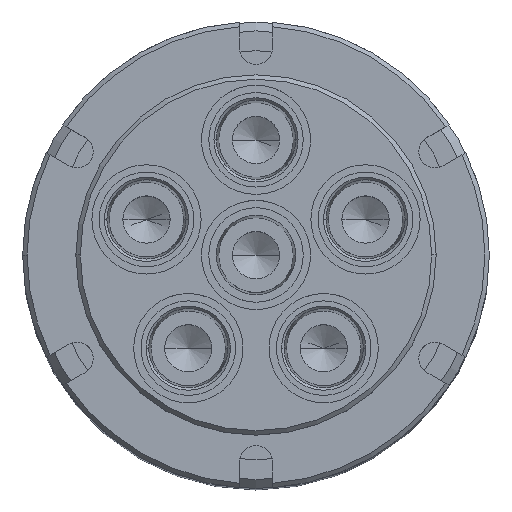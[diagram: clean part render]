
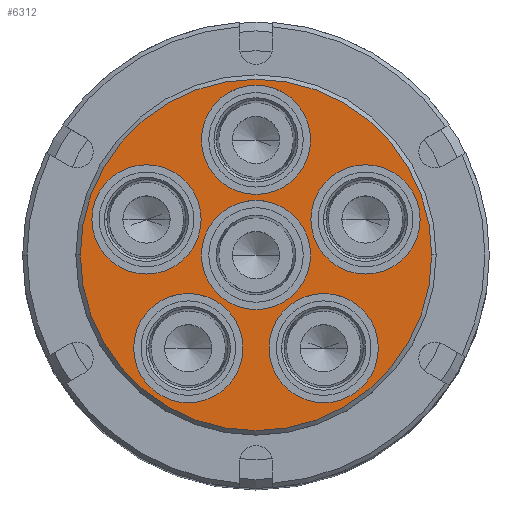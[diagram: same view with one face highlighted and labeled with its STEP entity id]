
A CAD part, top view. The second image highlights one B-rep face of the part: STEP entity #6312.
In plain terms, the highlighted planar face has unit normal (0, 0, 1).
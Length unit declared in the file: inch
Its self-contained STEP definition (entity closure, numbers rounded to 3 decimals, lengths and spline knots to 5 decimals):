
#44 = CIRCLE ( 'NONE', #49, 0.578 ) ;
#49 = AXIS2_PLACEMENT_3D ( 'NONE', #2556, #2557, #2558 ) ;
#77 = CIRCLE ( 'NONE', #80, 0.578 ) ;
#80 = AXIS2_PLACEMENT_3D ( 'NONE', #2711, #2712, #2713 ) ;
#195 = CIRCLE ( 'NONE', #198, 0.578 ) ;
#198 = AXIS2_PLACEMENT_3D ( 'NONE', #4321, #4322, #4323 ) ;
#323 = EDGE_LOOP ( 'NONE', ( #2308, #2307 ) ) ;
#324 = EDGE_LOOP ( 'NONE', ( #2306, #2305 ) ) ;
#326 = EDGE_LOOP ( 'NONE', ( #2316, #2315 ) ) ;
#362 = EDGE_LOOP ( 'NONE', ( #2312, #2311 ) ) ;
#391 = EDGE_LOOP ( 'NONE', ( #2304, #2303 ) ) ;
#558 = EDGE_LOOP ( 'NONE', ( #2310, #2309 ) ) ;
#561 = EDGE_LOOP ( 'NONE', ( #2314, #2313 ) ) ;
#681 = CARTESIAN_POINT ( 'NONE',  ( -1.15886, 0.37654, 0. ) ) ;
#682 = DIRECTION ( 'NONE',  ( 0., 0., 1. ) ) ;
#683 = DIRECTION ( 'NONE',  ( 0.309, 0.951, 0. ) ) ;
#833 = CARTESIAN_POINT ( 'NONE',  ( 1.15886, 0.37654, 0. ) ) ;
#834 = DIRECTION ( 'NONE',  ( 0., 0., 1. ) ) ;
#835 = DIRECTION ( 'NONE',  ( 0.309, -0.951, 0. ) ) ;
#1253 = CIRCLE ( 'NONE', #1257, 0.578 ) ;
#1257 = AXIS2_PLACEMENT_3D ( 'NONE', #1617, #1618, #1619 ) ;
#1358 = CIRCLE ( 'NONE', #1362, 0.578 ) ;
#1361 = CIRCLE ( 'NONE', #1363, 0.578 ) ;
#1362 = AXIS2_PLACEMENT_3D ( 'NONE', #4539, #4540, #4541 ) ;
#1363 = AXIS2_PLACEMENT_3D ( 'NONE', #4529, #4530, #4531 ) ;
#1381 = AXIS2_PLACEMENT_3D ( 'NONE', #4626, #4637, #4638 ) ;
#1392 = CIRCLE ( 'NONE', #1395, 1.859 ) ;
#1395 = AXIS2_PLACEMENT_3D ( 'NONE', #4667, #4668, #4669 ) ;
#1617 = CARTESIAN_POINT ( 'NONE',  ( 0., 1.2185, 0. ) ) ;
#1618 = DIRECTION ( 'NONE',  ( 0., 0., 1. ) ) ;
#1619 = DIRECTION ( 'NONE',  ( 1., 0., 0. ) ) ;
#2303 = ORIENTED_EDGE ( 'NONE', *, *, #5821, .T. ) ;
#2304 = ORIENTED_EDGE ( 'NONE', *, *, #6320, .T. ) ;
#2305 = ORIENTED_EDGE ( 'NONE', *, *, #6152, .F. ) ;
#2306 = ORIENTED_EDGE ( 'NONE', *, *, #6223, .F. ) ;
#2307 = ORIENTED_EDGE ( 'NONE', *, *, #5984, .F. ) ;
#2308 = ORIENTED_EDGE ( 'NONE', *, *, #6295, .F. ) ;
#2309 = ORIENTED_EDGE ( 'NONE', *, *, #6297, .F. ) ;
#2310 = ORIENTED_EDGE ( 'NONE', *, *, #5943, .F. ) ;
#2311 = ORIENTED_EDGE ( 'NONE', *, *, #5782, .F. ) ;
#2312 = ORIENTED_EDGE ( 'NONE', *, *, #5867, .F. ) ;
#2313 = ORIENTED_EDGE ( 'NONE', *, *, #5955, .F. ) ;
#2314 = ORIENTED_EDGE ( 'NONE', *, *, #5807, .F. ) ;
#2315 = ORIENTED_EDGE ( 'NONE', *, *, #6055, .F. ) ;
#2316 = ORIENTED_EDGE ( 'NONE', *, *, #6077, .F. ) ;
#2556 = CARTESIAN_POINT ( 'NONE',  ( 0., 0., 0. ) ) ;
#2557 = DIRECTION ( 'NONE',  ( 0., 0., 1. ) ) ;
#2558 = DIRECTION ( 'NONE',  ( 1., 0., 0. ) ) ;
#2711 = CARTESIAN_POINT ( 'NONE',  ( 0., 0., 0. ) ) ;
#2712 = DIRECTION ( 'NONE',  ( 0., 0., 1. ) ) ;
#2713 = DIRECTION ( 'NONE',  ( 1., 0., 0. ) ) ;
#3629 = CARTESIAN_POINT ( 'NONE',  ( 0.71622, -0.98579, 0. ) ) ;
#3630 = DIRECTION ( 'NONE',  ( 0., 0., 1. ) ) ;
#3631 = DIRECTION ( 'NONE',  ( -0.809, -0.588, 0. ) ) ;
#4321 = CARTESIAN_POINT ( 'NONE',  ( 0., 1.2185, 0. ) ) ;
#4322 = DIRECTION ( 'NONE',  ( 0., 0., 1. ) ) ;
#4323 = DIRECTION ( 'NONE',  ( 1., 0., 0. ) ) ;
#4529 = CARTESIAN_POINT ( 'NONE',  ( 1.15886, 0.37654, 0. ) ) ;
#4530 = DIRECTION ( 'NONE',  ( 0., 0., 1. ) ) ;
#4531 = DIRECTION ( 'NONE',  ( 0.309, -0.951, 0. ) ) ;
#4539 = CARTESIAN_POINT ( 'NONE',  ( 0.71622, -0.98579, 0. ) ) ;
#4540 = DIRECTION ( 'NONE',  ( 0., 0., 1. ) ) ;
#4541 = DIRECTION ( 'NONE',  ( -0.809, -0.588, 0. ) ) ;
#4626 = CARTESIAN_POINT ( 'NONE',  ( 0., 0., 0. ) ) ;
#4627 = FACE_BOUND ( 'NONE', #323, .T. ) ;
#4628 = FACE_BOUND ( 'NONE', #326, .T. ) ;
#4629 = FACE_BOUND ( 'NONE', #324, .T. ) ;
#4630 = FACE_BOUND ( 'NONE', #561, .T. ) ;
#4631 = FACE_OUTER_BOUND ( 'NONE', #391, .T. ) ;
#4632 = FACE_BOUND ( 'NONE', #362, .T. ) ;
#4633 = PLANE ( 'NONE',  #1381 ) ;
#4634 = FACE_BOUND ( 'NONE', #558, .T. ) ;
#4637 = DIRECTION ( 'NONE',  ( 0., 0., -1. ) ) ;
#4638 = DIRECTION ( 'NONE',  ( -1., 0., 0. ) ) ;
#4667 = CARTESIAN_POINT ( 'NONE',  ( 0., 0., 0. ) ) ;
#4668 = DIRECTION ( 'NONE',  ( 0., 0., 1. ) ) ;
#4669 = DIRECTION ( 'NONE',  ( -1., 0., 0. ) ) ;
#5454 = CARTESIAN_POINT ( 'NONE',  ( 0.58086, 0.37654, 0. ) ) ;
#5466 = CARTESIAN_POINT ( 'NONE',  ( -1.73686, 0.37654, 0. ) ) ;
#5469 = CARTESIAN_POINT ( 'NONE',  ( -0.13822, -0.98579, 0. ) ) ;
#5485 = CARTESIAN_POINT ( 'NONE',  ( 1.73686, 0.37654, 0. ) ) ;
#5500 = CARTESIAN_POINT ( 'NONE',  ( -0.578, 1.2185, 0. ) ) ;
#5501 = CARTESIAN_POINT ( 'NONE',  ( -1.859, 0., 0. ) ) ;
#5523 = CARTESIAN_POINT ( 'NONE',  ( -0.58086, 0.37654, 0. ) ) ;
#5552 = CARTESIAN_POINT ( 'NONE',  ( 0.578, 0., 0. ) ) ;
#5556 = CARTESIAN_POINT ( 'NONE',  ( 1.29422, -0.98579, 0. ) ) ;
#5782 = EDGE_CURVE ( 'NONE', #9142, #8952, #8728, .T. ) ;
#5807 = EDGE_CURVE ( 'NONE', #9005, #8949, #8713, .T. ) ;
#5821 = EDGE_CURVE ( 'NONE', #9130, #8984, #8578, .T. ) ;
#5867 = EDGE_CURVE ( 'NONE', #8952, #9142, #8495, .T. ) ;
#5943 = EDGE_CURVE ( 'NONE', #9038, #9157, #8741, .T. ) ;
#5955 = EDGE_CURVE ( 'NONE', #8949, #9005, #8588, .T. ) ;
#5984 = EDGE_CURVE ( 'NONE', #8941, #8968, #9476, .T. ) ;
#6055 = EDGE_CURVE ( 'NONE', #9145, #9034, #44, .T. ) ;
#6077 = EDGE_CURVE ( 'NONE', #9034, #9145, #77, .T. ) ;
#6152 = EDGE_CURVE ( 'NONE', #8983, #9136, #195, .T. ) ;
#6223 = EDGE_CURVE ( 'NONE', #9136, #8983, #1253, .T. ) ;
#6295 = EDGE_CURVE ( 'NONE', #8968, #8941, #1361, .T. ) ;
#6297 = EDGE_CURVE ( 'NONE', #9157, #9038, #1358, .T. ) ;
#6312 = ADVANCED_FACE ( 'NONE', ( #4628, #4630, #4632, #4634, #4627, #4629, #4631 ), #4633, .F. ) ;
#6320 = EDGE_CURVE ( 'NONE', #8984, #9130, #1392, .T. ) ;
#6450 = CARTESIAN_POINT ( 'NONE',  ( -1.15886, 0.37654, 0. ) ) ;
#6451 = DIRECTION ( 'NONE',  ( 0., 0., 1. ) ) ;
#6452 = DIRECTION ( 'NONE',  ( 0.309, 0.951, 0. ) ) ;
#6572 = CARTESIAN_POINT ( 'NONE',  ( 0., 0., 0. ) ) ;
#6573 = DIRECTION ( 'NONE',  ( 0., 0., 1. ) ) ;
#6574 = DIRECTION ( 'NONE',  ( -1., 0., 0. ) ) ;
#6903 = CARTESIAN_POINT ( 'NONE',  ( -0.71622, -0.98579, 0. ) ) ;
#6904 = DIRECTION ( 'NONE',  ( 0., 0., 1. ) ) ;
#6905 = DIRECTION ( 'NONE',  ( -0.809, 0.588, 0. ) ) ;
#7344 = CARTESIAN_POINT ( 'NONE',  ( -0.71622, -0.98579, 0. ) ) ;
#7345 = DIRECTION ( 'NONE',  ( 0., 0., 1. ) ) ;
#7346 = DIRECTION ( 'NONE',  ( -0.809, 0.588, 0. ) ) ;
#8018 = CARTESIAN_POINT ( 'NONE',  ( 1.859, 0., 0. ) ) ;
#8024 = CARTESIAN_POINT ( 'NONE',  ( 0.578, 1.2185, 0. ) ) ;
#8030 = CARTESIAN_POINT ( 'NONE',  ( -1.29422, -0.98579, 0. ) ) ;
#8033 = CARTESIAN_POINT ( 'NONE',  ( -0.578, 0., 0. ) ) ;
#8045 = CARTESIAN_POINT ( 'NONE',  ( 0.13822, -0.98579, 0. ) ) ;
#8495 = CIRCLE ( 'NONE', #8609, 0.578 ) ;
#8578 = CIRCLE ( 'NONE', #8703, 1.859 ) ;
#8588 = CIRCLE ( 'NONE', #8739, 0.578 ) ;
#8607 = AXIS2_PLACEMENT_3D ( 'NONE', #6450, #6451, #6452 ) ;
#8609 = AXIS2_PLACEMENT_3D ( 'NONE', #6903, #6904, #6905 ) ;
#8694 = AXIS2_PLACEMENT_3D ( 'NONE', #3629, #3630, #3631 ) ;
#8703 = AXIS2_PLACEMENT_3D ( 'NONE', #6572, #6573, #6574 ) ;
#8713 = CIRCLE ( 'NONE', #8607, 0.578 ) ;
#8715 = AXIS2_PLACEMENT_3D ( 'NONE', #7344, #7345, #7346 ) ;
#8728 = CIRCLE ( 'NONE', #8715, 0.578 ) ;
#8739 = AXIS2_PLACEMENT_3D ( 'NONE', #681, #682, #683 ) ;
#8741 = CIRCLE ( 'NONE', #8694, 0.578 ) ;
#8941 = VERTEX_POINT ( 'NONE', #5454 ) ;
#8949 = VERTEX_POINT ( 'NONE', #5466 ) ;
#8952 = VERTEX_POINT ( 'NONE', #5469 ) ;
#8968 = VERTEX_POINT ( 'NONE', #5485 ) ;
#8983 = VERTEX_POINT ( 'NONE', #5500 ) ;
#8984 = VERTEX_POINT ( 'NONE', #5501 ) ;
#9005 = VERTEX_POINT ( 'NONE', #5523 ) ;
#9034 = VERTEX_POINT ( 'NONE', #5552 ) ;
#9038 = VERTEX_POINT ( 'NONE', #5556 ) ;
#9130 = VERTEX_POINT ( 'NONE', #8018 ) ;
#9136 = VERTEX_POINT ( 'NONE', #8024 ) ;
#9142 = VERTEX_POINT ( 'NONE', #8030 ) ;
#9145 = VERTEX_POINT ( 'NONE', #8033 ) ;
#9157 = VERTEX_POINT ( 'NONE', #8045 ) ;
#9476 = CIRCLE ( 'NONE', #9482, 0.578 ) ;
#9482 = AXIS2_PLACEMENT_3D ( 'NONE', #833, #834, #835 ) ;
